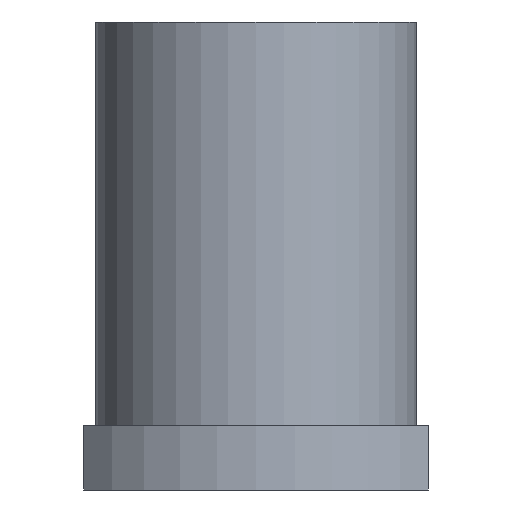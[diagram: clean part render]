
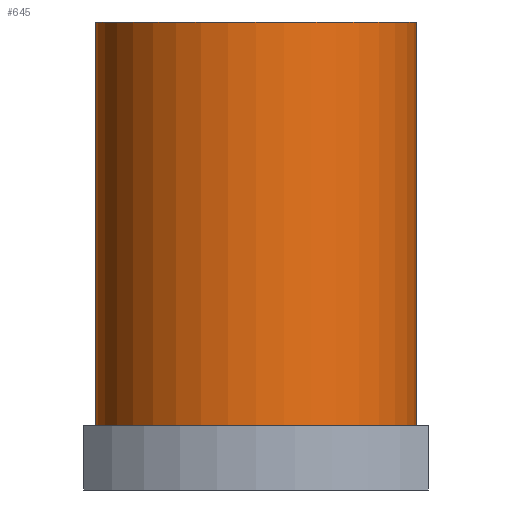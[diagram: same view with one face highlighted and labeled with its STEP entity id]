
A CAD part, front view. The second image highlights one B-rep face of the part: STEP entity #645.
In plain terms, the highlighted cylindrical face has radius 35 mm (diameter 70 mm), a partial arc.
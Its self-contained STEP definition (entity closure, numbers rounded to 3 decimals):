
#155=CARTESIAN_POINT('',(0.,0.,102.));
#156=DIRECTION('',(0.,0.,1.));
#157=DIRECTION('',(-1.,0.,0.));
#158=AXIS2_PLACEMENT_3D('',#155,#156,#157);
#175=DIRECTION('',(0.,0.,-1.));
#176=VECTOR('',#175,88.);
#177=CARTESIAN_POINT('',(35.,0.,102.));
#178=LINE('',#177,#176);
#179=DIRECTION('',(0.,0.,-1.));
#180=VECTOR('',#179,88.);
#181=CARTESIAN_POINT('',(-35.,0.,102.));
#182=LINE('',#181,#180);
#183=CARTESIAN_POINT('',(0.,0.,14.));
#184=DIRECTION('',(0.,0.,-1.));
#185=DIRECTION('',(1.,0.,0.));
#186=AXIS2_PLACEMENT_3D('',#183,#184,#185);
#411=CARTESIAN_POINT('',(35.,0.,14.));
#412=CARTESIAN_POINT('',(-35.,0.,14.));
#413=VERTEX_POINT('',#411);
#414=VERTEX_POINT('',#412);
#415=CARTESIAN_POINT('',(-35.,0.,102.));
#416=CARTESIAN_POINT('',(35.,0.,102.));
#417=VERTEX_POINT('',#415);
#418=VERTEX_POINT('',#416);
#631=CARTESIAN_POINT('',(0.,0.,102.));
#632=DIRECTION('',(0.,0.,1.));
#633=DIRECTION('',(1.,0.,0.));
#634=AXIS2_PLACEMENT_3D('',#631,#632,#633);
#635=CYLINDRICAL_SURFACE('',#634,35.);
#636=ORIENTED_EDGE('',*,*,#620,.T.);
#638=ORIENTED_EDGE('',*,*,#637,.T.);
#640=ORIENTED_EDGE('',*,*,#639,.T.);
#642=ORIENTED_EDGE('',*,*,#641,.F.);
#643=EDGE_LOOP('',(#636,#638,#640,#642));
#644=FACE_OUTER_BOUND('',#643,.F.);
#159=CIRCLE('',#158,35.);
#187=CIRCLE('',#186,35.);
#620=EDGE_CURVE('',#417,#418,#159,.T.);
#637=EDGE_CURVE('',#418,#413,#178,.T.);
#639=EDGE_CURVE('',#413,#414,#187,.T.);
#641=EDGE_CURVE('',#417,#414,#182,.T.);
#645=ADVANCED_FACE('',(#644),#635,.T.);
